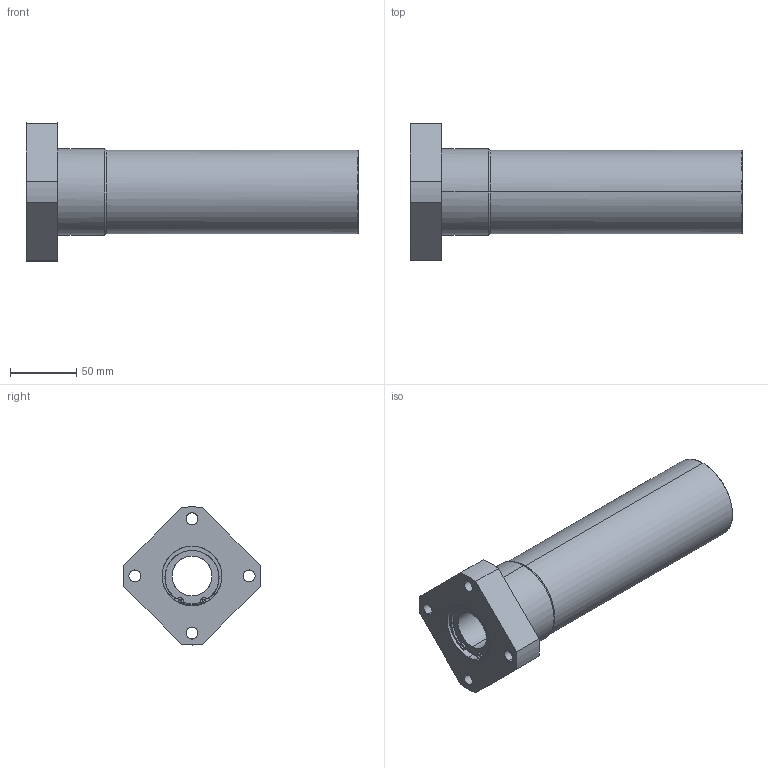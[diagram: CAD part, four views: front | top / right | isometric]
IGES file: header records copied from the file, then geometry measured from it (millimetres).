
Global section: file name: No Iges File Name specified; native system: AutoDesk Inventor R11.0; preprocessor: AutoDesk Inventor Iges Exporter R11.0; author: No Author specified; organization: No Organization specified; date: 20170922.134649; units: millimetre
Bounding box: 250 x 103.86 x 103.93 mm (x, y, z)
Surface area: 98862.2 mm2 (no closed solid volume)
Topology: 0 solids, 0 shells, 130 faces, 964 edges, 964 vertices
Faces by surface type: bspline 130
